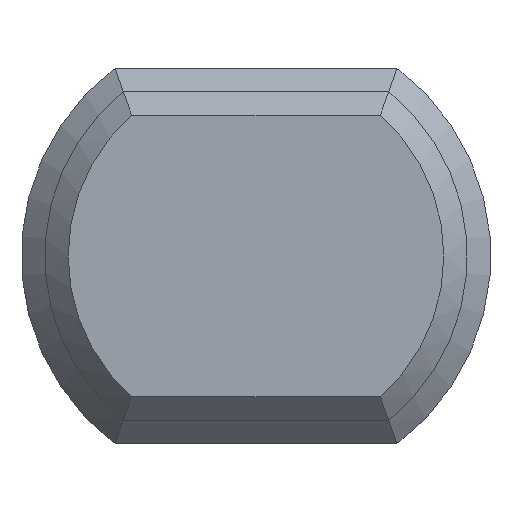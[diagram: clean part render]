
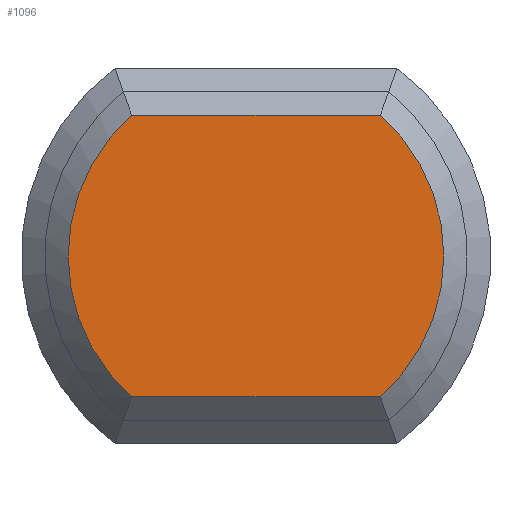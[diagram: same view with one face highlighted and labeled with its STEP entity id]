
A CAD part, front view. The second image highlights one B-rep face of the part: STEP entity #1096.
In plain terms, the highlighted planar face has unit normal (0, -1, 0).
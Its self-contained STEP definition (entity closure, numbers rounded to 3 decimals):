
#62 = CARTESIAN_POINT ( 'NONE',  ( 5.292, -9.5, -6. ) ) ;
#124 = VERTEX_POINT ( 'NONE', #62 ) ;
#132 = ORIENTED_EDGE ( 'NONE', *, *, #172, .T. ) ;
#172 = EDGE_CURVE ( 'NONE', #859, #124, #762, .T. ) ;
#211 = ORIENTED_EDGE ( 'NONE', *, *, #925, .T. ) ;
#222 = CARTESIAN_POINT ( 'NONE',  ( -5.292, -9.5, 6. ) ) ;
#255 = CARTESIAN_POINT ( 'NONE',  ( 0., -9.5, 0. ) ) ;
#259 = EDGE_CURVE ( 'NONE', #124, #1250, #1358, .T. ) ;
#260 = AXIS2_PLACEMENT_3D ( 'NONE', #1115, #1361, #501 ) ;
#350 = EDGE_CURVE ( 'NONE', #1457, #859, #1313, .T. ) ;
#385 = DIRECTION ( 'NONE',  ( 1., 0., 0. ) ) ;
#448 = LINE ( 'NONE', #942, #1346 ) ;
#462 = ORIENTED_EDGE ( 'NONE', *, *, #350, .T. ) ;
#496 = CARTESIAN_POINT ( 'NONE',  ( 0., -9.5, -6. ) ) ;
#501 = DIRECTION ( 'NONE',  ( 0., 0., -1. ) ) ;
#520 = VECTOR ( 'NONE', #385, 1000. ) ;
#533 = CARTESIAN_POINT ( 'NONE',  ( 5.292, -9.5, 6. ) ) ;
#609 = FACE_OUTER_BOUND ( 'NONE', #1259, .T. ) ;
#618 = DIRECTION ( 'NONE',  ( 0., -1., 0. ) ) ;
#662 = CARTESIAN_POINT ( 'NONE',  ( -5.292, -9.5, -6. ) ) ;
#762 = LINE ( 'NONE', #496, #520 ) ;
#850 = CARTESIAN_POINT ( 'NONE',  ( 0., -9.5, 0. ) ) ;
#859 = VERTEX_POINT ( 'NONE', #662 ) ;
#925 = EDGE_CURVE ( 'NONE', #1250, #1457, #448, .T. ) ;
#942 = CARTESIAN_POINT ( 'NONE',  ( 0., -9.5, 6. ) ) ;
#945 = ORIENTED_EDGE ( 'NONE', *, *, #259, .T. ) ;
#977 = DIRECTION ( 'NONE',  ( 0., -1., 0. ) ) ;
#1070 = AXIS2_PLACEMENT_3D ( 'NONE', #850, #977, #1378 ) ;
#1083 = DIRECTION ( 'NONE',  ( -1., 0., 0. ) ) ;
#1096 = ADVANCED_FACE ( 'NONE', ( #609 ), #1497, .T. ) ;
#1115 = CARTESIAN_POINT ( 'NONE',  ( 0., -9.5, 0. ) ) ;
#1242 = DIRECTION ( 'NONE',  ( 0., 0., -1. ) ) ;
#1250 = VERTEX_POINT ( 'NONE', #533 ) ;
#1252 = AXIS2_PLACEMENT_3D ( 'NONE', #255, #618, #1242 ) ;
#1259 = EDGE_LOOP ( 'NONE', ( #211, #462, #132, #945 ) ) ;
#1313 = CIRCLE ( 'NONE', #260, 8. ) ;
#1346 = VECTOR ( 'NONE', #1083, 1000. ) ;
#1358 = CIRCLE ( 'NONE', #1070, 8. ) ;
#1361 = DIRECTION ( 'NONE',  ( 0., -1., 0. ) ) ;
#1378 = DIRECTION ( 'NONE',  ( 0., 0., -1. ) ) ;
#1457 = VERTEX_POINT ( 'NONE', #222 ) ;
#1497 = PLANE ( 'NONE',  #1252 ) ;
